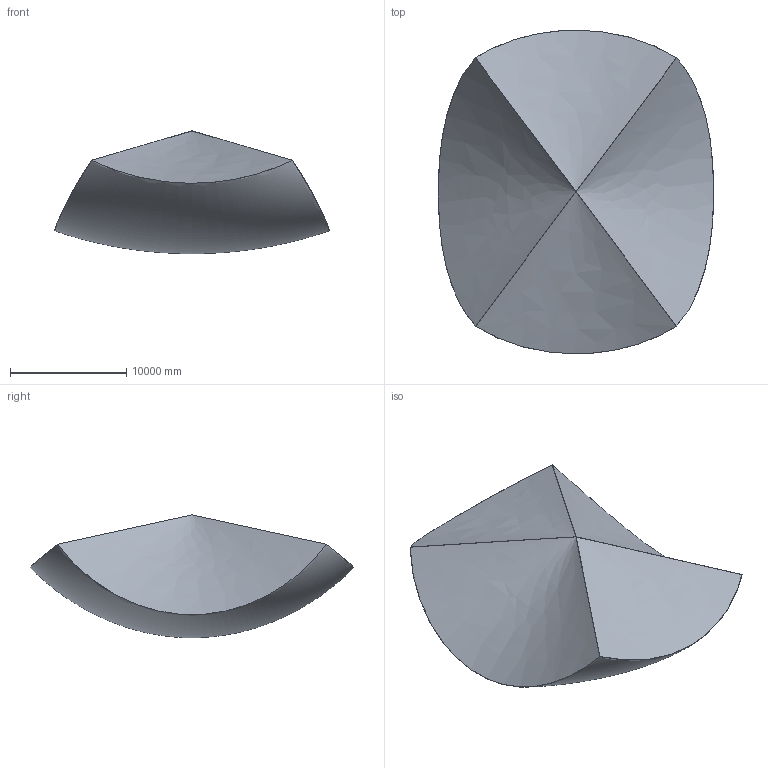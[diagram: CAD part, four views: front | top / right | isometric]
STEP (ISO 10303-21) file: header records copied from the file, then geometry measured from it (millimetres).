
FILE_DESCRIPTION(/* description */ (''),/* implementation_level */ '2;1');
FILE_NAME(/* name */ '20260326-FTX-FOV140-平台开模版本.stp',/* time_stamp */ '2026-03-26T14:09:50+08:00',/* author */ (''),/* organization */ (''),/* preprocessor_version */ 'ST-DEVELOPER v16.7',/* originating_system */ 'SIEMENS PLM Software NX 1934',/* authorisation */ '');
FILE_SCHEMA (('AUTOMOTIVE_DESIGN { 1 0 10303 214 3 1 1 1 }'));
Products named in the file (1): lizh725C5C54c2o9
Bounding box: 23653.46 x 27805 x 10610.59 mm (x, y, z)
Volume: 5312345987625.2 mm3; surface area: 2699839103.2 mm2
Topology: 13 solids, 13 shells, 4310 faces, 10972 edges, 6768 vertices
Faces by surface type: plane 1999, cylinder 1362, torus 377, bspline 297, cone 190, sphere 84, revolution 1
Full cylindrical faces by diameter (mm): 0.926 x1, 1.6 x6, 2.13 x2, 2.5 x3, 2.6 x2, 4 x2, 6 x2, 13.5 x1, 14.5 x2, 14.977 x1, 15.116 x1, 15.4 x1, 15.9 x1, 16 x2, 17.6 x5, 17.8 x2, 17.81 x1, 17.86 x1, 18.2 x1, 18.3 x1, 18.4 x1, 18.55 x1, 18.8 x1, 20.4 x2, 22.3 x1, 22.8 x1, 23.3 x2, 24.7 x1, 27.1 x1
Entity records: 434029 total; most frequent: CARTESIAN_POINT 330580, ORIENTED_EDGE 21482, DIRECTION 19139, EDGE_CURVE 10741, VERTEX_POINT 6729, AXIS2_PLACEMENT_3D 6392, LINE 6354, VECTOR 6354
